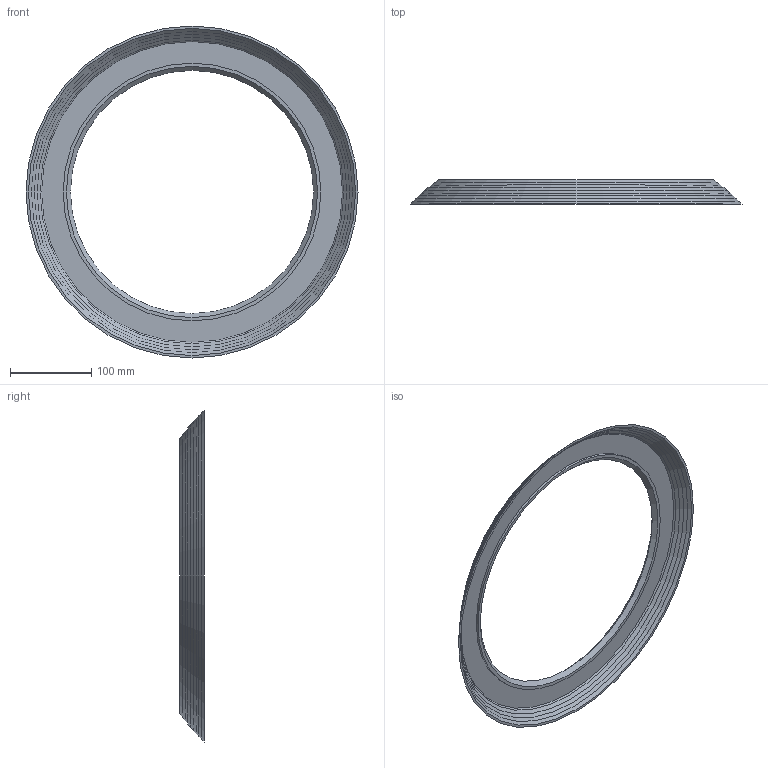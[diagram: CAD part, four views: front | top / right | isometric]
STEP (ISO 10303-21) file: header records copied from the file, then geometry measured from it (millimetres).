
FILE_DESCRIPTION(('Open CASCADE Model'),'2;1');
FILE_NAME('Open CASCADE Shape Model','2026-10-18T22:58:03',('Author'),( 'Open CASCADE'),'Open CASCADE STEP processor 7.9','Open CASCADE 7.9' ,'Unknown');
FILE_SCHEMA(('AUTOMOTIVE_DESIGN { 1 0 10303 214 1 1 1 1 }'));
Length unit declared in the file: millimetre
Products named in the file (1): Open CASCADE STEP translator 7.9 4
Bounding box: 409.64 x 30 x 409.64 mm (x, y, z)
Volume: 273505.1 mm3; surface area: 187735.5 mm2
Topology: 1 solids, 1 shells, 28 faces, 50 edges, 28 vertices
Faces by surface type: cone 20, plane 6, cylinder 2
Full cylindrical faces by diameter (mm): 318 x2
Entity records: 1350 total; most frequent: DIRECTION 232, CARTESIAN_POINT 231, LINE 110, VECTOR 110, ORIENTED_EDGE 100, PCURVE 100, DEFINITIONAL_REPRESENTATION 100, AXIS2_PLACEMENT_3D 57
